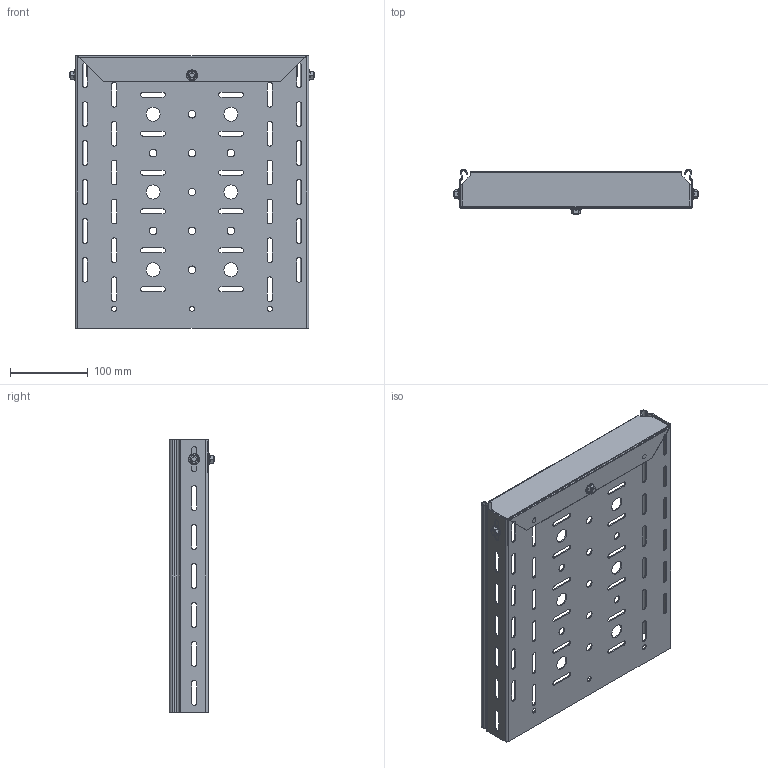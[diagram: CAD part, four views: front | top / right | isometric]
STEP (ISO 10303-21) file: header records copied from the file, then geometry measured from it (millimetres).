
FILE_DESCRIPTION (( 'STEP AP214' ), '1' );
FILE_NAME ('ﾇﾒ+ﾓﾋ(ﾏ)_50.STEP', '2016-10-06T20:22:12', ( '' ), ( '' ), 'SwSTEP 2.0', 'SolidWorks 2016', '' );
FILE_SCHEMA (( 'AUTOMOTIVE_DESIGN' ));
Length unit declared in the file: millimetre
Products named in the file (5): hex flange nut_din_Hexagon Flange Nut DIN 6923 - M6 - N; pan head cross recess screw_din_ISO 7045 - M6 x 10 - Z --- 10N; ÇÒ_300å50; ÓË(Ï)-300õÍõ550_3000.1,5.300.50; ﾇﾒ+ﾓﾋ(ﾏ)_50
Assembly tree (8 placements, depth 2):
  ﾇﾒ+ﾓﾋ(ﾏ)_50
    ÓË(Ï)-300õÍõ550_3000.1,5.300.50
    ÇÒ_300å50
    pan head cross recess screw_din_ISO 7045 - M6 x 10 - Z --- 10N  x3
    hex flange nut_din_Hexagon Flange Nut DIN 6923 - M6 - N  x3
Bounding box: 314.79 x 58.5 x 350 mm (x, y, z)
Volume: 226117.7 mm3; surface area: 343800.2 mm2
Topology: 8 solids, 8 shells, 604 faces, 1580 edges, 989 vertices
Faces by surface type: plane 280, cylinder 226, cone 54, bspline 20, torus 18, sphere 6
Entity records: 15532 total; most frequent: CARTESIAN_POINT 2912, DIRECTION 2646, ORIENTED_EDGE 2540, EDGE_CURVE 1270, AXIS2_PLACEMENT_3D 949, VERTEX_POINT 807, VECTOR 748, LINE 748
